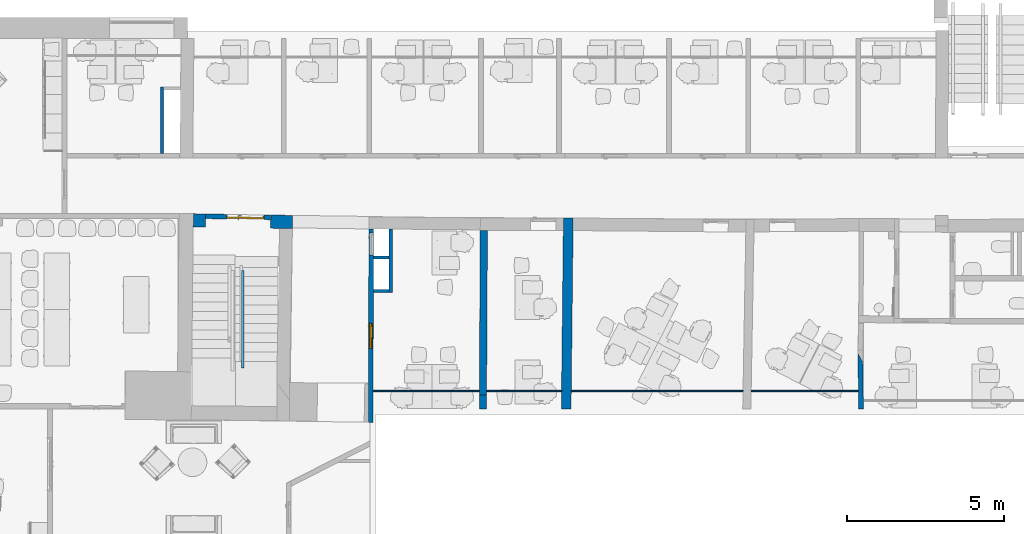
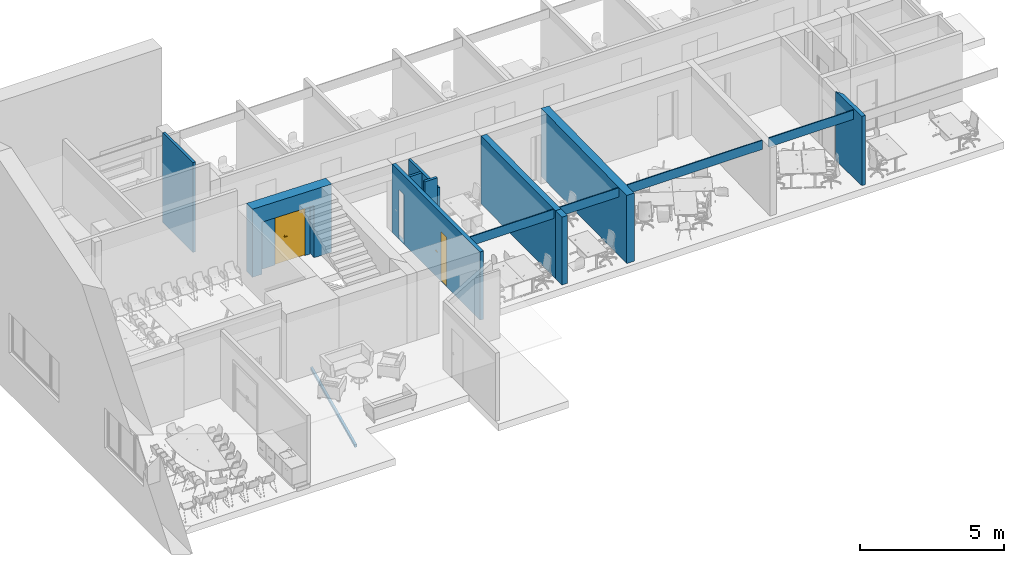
# One storey, part 3 of 19: 16 walls, 2 doors, 4 openings.
"""IFC2X3 building model written with IfcOpenShell, lengths in millimetres."""

from ifc_helpers import new_model, entity, si_unit, converted_unit, derived_unit, direction, frame, frame_2d, origin, origin_2d_with_axis, place, context, subcontext, project, spatial, polyline, rectangle, outline, extrude, clip, halfspace, bounded_halfspace, faceted_brep, source, transform, mapped, material, material_list, layer, layer_set, layer_usage, type_object, type_shapes, element, fill, save


model = new_model("IFC2X3")

# Units and contexts
model_context = context("Model", 3, precision=0.01, world=origin(), true_north=direction((6.12303176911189e-17, 1.0)))
context_of_model = context(None, 3, precision=0.01, world=origin(), true_north=direction((6.12303176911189e-17, 1.0)))
body_context = subcontext(model_context, "Body", "Model", "MODEL_VIEW")
ifc_project = project(units=[si_unit("LENGTHUNIT", "METRE", prefix="MILLI"), si_unit("AREAUNIT", "SQUARE_METRE"), si_unit("VOLUMEUNIT", "CUBIC_METRE"), converted_unit("PLANEANGLEUNIT", "DEGREE", entity("IfcRatioMeasure", 0.0174532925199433), si_unit("PLANEANGLEUNIT", "RADIAN"), dimensions=[0, 0, 0, 0, 0, 0, 0]), si_unit("MASSUNIT", "GRAM", prefix="KILO"), derived_unit("MASSDENSITYUNIT", [(si_unit("MASSUNIT", "GRAM", prefix="KILO"), 1), (si_unit("LENGTHUNIT", "METRE"), -3)]), si_unit("TIMEUNIT", "SECOND"), si_unit("FREQUENCYUNIT", "HERTZ"), si_unit("THERMODYNAMICTEMPERATUREUNIT", "DEGREE_CELSIUS"), derived_unit("THERMALTRANSMITTANCEUNIT", [(si_unit("MASSUNIT", "GRAM", prefix="KILO"), 1), (si_unit("THERMODYNAMICTEMPERATUREUNIT", "KELVIN"), -1), (si_unit("TIMEUNIT", "SECOND"), -3)]), derived_unit("VOLUMETRICFLOWRATEUNIT", [(si_unit("LENGTHUNIT", "METRE"), 3), (si_unit("TIMEUNIT", "SECOND"), -1)]), si_unit("ELECTRICCURRENTUNIT", "AMPERE"), si_unit("ELECTRICVOLTAGEUNIT", "VOLT"), si_unit("POWERUNIT", "WATT"), si_unit("FORCEUNIT", "NEWTON", prefix="KILO"), si_unit("ILLUMINANCEUNIT", "LUX"), si_unit("LUMINOUSFLUXUNIT", "LUMEN"), si_unit("LUMINOUSINTENSITYUNIT", "CANDELA"), derived_unit("USERDEFINED", [(si_unit("MASSUNIT", "GRAM", prefix="KILO"), -1), (si_unit("LENGTHUNIT", "METRE"), -2), (si_unit("TIMEUNIT", "SECOND"), 3), (si_unit("LUMINOUSFLUXUNIT", "LUMEN"), 1)]), derived_unit("LINEARVELOCITYUNIT", [(si_unit("LENGTHUNIT", "METRE"), 1), (si_unit("TIMEUNIT", "SECOND"), -1)]), si_unit("PRESSUREUNIT", "PASCAL"), derived_unit("USERDEFINED", [(si_unit("LENGTHUNIT", "METRE"), -2), (si_unit("MASSUNIT", "GRAM", prefix="KILO"), 1), (si_unit("TIMEUNIT", "SECOND"), -2)])], contexts=[model_context, context_of_model])

# Site, building, storey
site_placement = place(None, frame((121442.264707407, 135347.995453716, -1800.0)))
site = spatial("IfcSite", under=ifc_project, at=site_placement, Name="Surface", CompositionType="ELEMENT")
building_placement = place(site_placement, origin())
building = spatial("IfcBuilding", under=site, at=building_placement, CompositionType="ELEMENT")
storey_placement = place(building_placement, frame((0.0, 0.0, 5125.0)))
storey = spatial("IfcBuildingStorey", under=building, at=storey_placement, Name="2 korrus", CompositionType="ELEMENT", Elevation=5125.00000000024)

# Wall, openings, door
ifc_material_1 = material(Name="__Betoonelement")
ifc_layer_1 = layer(ifc_material_1, 150.0)
ifc_layer_set_1 = layer_set([ifc_layer_1], Name="Basic Wall:15_Betoon")
ifc_layer_usage_1 = layer_usage(ifc_layer_set_1, "AXIS2", "NEGATIVE", 75.0)
wall_type_1 = type_object("IfcWallType", Name="Basic Wall:15_Betoon", PredefinedType="STANDARD", material=ifc_layer_set_1)
wall_1_placement = place(storey_placement, frame((-103674.129993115, -127553.831899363, -5.0), z_axis=(0.0, 0.0, 1.0), x_axis=(0.00343135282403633, 0.999994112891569, 0.0)))
wall_1 = element("IfcWallStandardCase", 1, at=wall_1_placement, inside=storey, type_object=wall_type_1, material=ifc_layer_usage_1, Name="Basic Wall:15_Betoon", ObjectType="Basic Wall:15_Betoon", context=body_context, shape_type="Clipping", body=[
    clip(extrude(outline(polyline([(6152.17328757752, -75.0), (6152.95022643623, 75.0), (2.10342780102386, 75.0), (0.0, -75.0), (6152.17328757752, -75.0)])), origin(), (0.0, 0.0, 1.0), 2902.0), bounded_halfspace(frame((0.0, -75.0, 2902.0), z_axis=(0.0, 0.0, -1.0), x_axis=(-0.999994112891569, -0.00343135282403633, 0.0)), True, frame((0.0, -75.0, 2902.0)), polyline([(0.0, 0.0), (6152.17328757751, 0.0), (6152.95022643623, 150.0), (1222.22337253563, 150.0), (2.10342780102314, 150.0), (0.0, 0.0)]))),
])
opening_1_placement = place(wall_1_placement, frame((2340.94737332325, -73.6103021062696, 5.0)))
opening_1 = element("IfcOpeningElement", 2, at=opening_1_placement, cuts=wall_1, Name="sma_D01:810 x 2110_SU-01 Siseuks:1", ObjectType="Opening", context=body_context, shape_type="SweptSolid", body=[
    extrude(rectangle(XDim=2099.99999999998, YDim=810.0, at=frame_2d((1049.99999999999, 405.0), x_axis=(1.0, 0.0))), frame((0.0, 0.0, 0.0), z_axis=(0.00343135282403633, 0.999994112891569, 0.0), x_axis=(0.0, 0.0, 1.0)), (0.0, 0.0, 1.0), 150.0),
])
opening_2_placement = place(wall_1_placement, frame((5319.48220216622, -73.79902651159, 5.0)))
element("IfcOpeningElement", 3, at=opening_2_placement, cuts=wall_1, Name="sma_D01:700 x 2100mm SU-13 Tuletokke:1", ObjectType="Opening", context=body_context, shape_type="SweptSolid", body=[
    extrude(rectangle(XDim=2099.99999999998, YDim=700.0, at=frame_2d((1049.99999999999, 350.000000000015), x_axis=(1.0, 0.0))), frame((0.0, 0.0, 0.0), z_axis=(0.00343135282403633, 0.999994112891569, 0.0), x_axis=(0.0, 0.0, 1.0)), (0.0, 0.0, 1.0), 150.0),
])
ifc_material_2 = material(Name="Metal - Aluminium")
ifc_material_3 = material(Name="Door - Panel_valge")
ifc_material_list_1 = material_list([ifc_material_2, ifc_material_3])
ifc_material_list_2 = material_list([ifc_material_2, ifc_material_3])
door_style_1 = type_object("IfcDoorStyle", Name="810 x 2110_SU-01 Siseuks", ConstructionType="NOTDEFINED", OperationType="SINGLE_SWING_LEFT", ParameterTakesPrecedence=False, Sizeable=False, material=ifc_material_list_2)
shared_shape_1 = source(origin(), body_context, "Body", "Brep", [
    faceted_brep([(710.0, 40.0, 1112.5), (615.0, 40.0, 1112.5), (615.0, 35.0, 1112.5), (735.0, 35.0, 1112.5), (735.0, 78.0, 1112.5), (710.0, 78.0, 1112.5), (710.0, 40.0, 1087.5), (710.0, 78.0, 1087.5), (735.0, 78.0, 1087.5), (735.0, 35.0, 1087.5), (615.0, 35.0, 1087.5), (615.0, 40.0, 1087.5)], [[[0, 1, 2, 3, 4, 5]], [[6, 7, 8, 9, 10, 11]], [[5, 7, 6, 0]], [[4, 8, 7, 5]], [[3, 9, 8, 4]], [[2, 10, 9, 3]], [[1, 11, 10, 2]], [[0, 6, 11, 1]]]),
    faceted_brep([(697.500000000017, 78.0, 1137.5), (747.500000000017, 78.0, 1137.5), (747.500000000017, 80.0, 1137.5), (697.500000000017, 80.0, 1137.5), (697.500000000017, 78.0, 1017.5), (697.500000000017, 80.0, 1017.5), (747.500000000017, 80.0, 1017.5), (747.500000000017, 78.0, 1017.5)], [[[0, 1, 2, 3]], [[4, 5, 6, 7]], [[3, 5, 4, 0]], [[2, 6, 5, 3]], [[1, 7, 6, 2]], [[0, 4, 7, 1]]]),
    faceted_brep([(710.0, 170.0, 1112.5), (710.0, 132.0, 1112.5), (735.0, 132.0, 1112.5), (735.0, 175.0, 1112.5), (615.0, 175.0, 1112.5), (615.0, 170.0, 1112.5), (710.0, 170.0, 1087.5), (615.0, 170.0, 1087.5), (615.0, 175.0, 1087.5), (735.0, 175.0, 1087.5), (735.0, 132.0, 1087.5), (710.0, 132.0, 1087.5)], [[[0, 1, 2, 3, 4, 5]], [[6, 7, 8, 9, 10, 11]], [[1, 0, 6, 11]], [[2, 1, 11, 10]], [[3, 2, 10, 9]], [[4, 3, 9, 8]], [[5, 4, 8, 7]], [[0, 5, 7, 6]]]),
    faceted_brep([(697.500000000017, 132.0, 1137.5), (697.500000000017, 130.0, 1137.5), (747.500000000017, 130.0, 1137.5), (747.500000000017, 132.0, 1137.5), (697.500000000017, 132.0, 1017.5), (747.500000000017, 132.0, 1017.5), (747.500000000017, 130.0, 1017.5), (697.500000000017, 130.0, 1017.5)], [[[0, 1, 2, 3]], [[4, 5, 6, 7]], [[1, 0, 4, 7]], [[2, 1, 7, 6]], [[3, 2, 6, 5]], [[0, 3, 5, 4]]]),
    faceted_brep([(0.0, 40.0, 0.0), (0.0, 130.0, 0.0), (25.0, 130.0, 0.0), (25.0, 80.0, 0.0), (40.0, 80.0, 0.0), (40.0, 40.0, 0.0), (40.0, 40.0, 2060.0), (770.0, 40.0, 2060.0), (770.0, 40.0, 0.0), (810.0, 40.0, 0.0), (810.0, 40.0, 2100.0), (0.0, 40.0, 2100.0), (40.0, 80.0, 2060.0), (25.0, 80.0, 2075.0), (785.0, 80.0, 2075.0), (785.0, 80.0, 0.0), (770.0, 80.0, 0.0), (770.0, 80.0, 2060.0), (25.0, 130.0, 2075.0), (0.0, 130.0, 2100.0), (810.0, 130.0, 2100.0), (810.0, 130.0, 0.0), (785.0, 130.0, 0.0), (785.0, 130.0, 2075.0)], [[[0, 1, 2, 3, 4, 5]], [[5, 6, 7, 8, 9, 10, 11, 0]], [[4, 12, 6, 5]], [[3, 13, 14, 15, 16, 17, 12, 4]], [[2, 18, 13, 3]], [[1, 19, 20, 21, 22, 23, 18, 2]], [[0, 11, 19, 1]], [[10, 9, 21, 20]], [[9, 8, 16, 15, 22, 21]], [[17, 16, 8, 7]], [[23, 22, 15, 14]], [[12, 17, 7, 6]], [[18, 23, 14, 13]], [[11, 10, 20, 19]]]),
    faceted_brep([(785.0, 80.0, 2075.0), (25.0, 80.0, 2075.0), (25.0, 80.0, 20.0), (785.0, 80.0, 20.0), (785.0, 130.0, 2075.0), (785.0, 130.0, 20.0), (25.0, 130.0, 20.0), (25.0, 130.0, 2075.0)], [[[0, 1, 2, 3]], [[4, 5, 6, 7]], [[3, 5, 4, 0]], [[2, 6, 5, 3]], [[1, 7, 6, 2]], [[0, 4, 7, 1]]]),
    faceted_brep([(40.0, 40.0, 30.0), (40.0, 80.0, 30.0), (40.0, 80.0, 20.0), (40.0, 80.0, 0.0), (40.0, 40.0, 0.0), (770.0, 40.0, 30.0), (770.0, 40.0, 0.0), (770.0, 80.0, 0.0), (770.0, 80.0, 20.0), (770.0, 80.0, 30.0), (25.0, 80.0, 0.0), (25.0, 130.0, 0.0), (785.0, 130.0, 0.0), (785.0, 80.0, 0.0), (25.0, 130.0, 20.0), (25.0, 80.0, 20.0), (785.0, 130.0, 20.0), (785.0, 80.0, 20.0)], [[[0, 1, 2, 3, 4]], [[5, 6, 7, 8, 9]], [[4, 6, 5, 0]], [[3, 10, 11, 12, 13, 7, 6, 4]], [[9, 8, 2, 1]], [[0, 5, 9, 1]], [[14, 11, 10, 15]], [[16, 17, 13, 12]], [[15, 2, 8, 17, 16, 14]], [[10, 3, 2, 15]], [[14, 16, 12, 11]], [[17, 8, 7, 13]]]),
])
type_shapes(door_style_1, [shared_shape_1])
door_1_placement = place(opening_1_placement, frame((0.0, -9.4228030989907, 0.0)))
door_1 = element("IfcDoor", 4, at=door_1_placement, inside=storey, type_object=door_style_1, material=ifc_material_list_1, Name="sma_D01:810 x 2110_SU-01 Siseuks", ObjectType="810 x 2110_SU-01 Siseuks", OverallHeight=2099.99999999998, OverallWidth=809.999999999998, context=body_context, shape_type="MappedRepresentation", body=[
    mapped(shared_shape_1, transform((0.0, 0.0, 0.0), scale=1.0)),
])
fill(opening_1, door_1)

# Walls
ifc_layer_usage_2 = layer_usage(ifc_layer_set_1, "AXIS2", "POSITIVE", -75.0)
wall_2_placement = place(storey_placement, frame((-88098.7009986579, -125357.105633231, 0.0), z_axis=(0.0, 0.0, 1.0), x_axis=(0.0149456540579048, -0.999888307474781, 0.0)))
element("IfcWallStandardCase", 5, at=wall_2_placement, inside=storey, type_object=wall_type_1, material=ifc_layer_usage_2, Name="Basic Wall:15_Betoon", ObjectType="Basic Wall:15_Betoon", context=body_context, shape_type="SweptSolid", body=[
    extrude(outline(polyline([(1777.95304226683, -75.0), (1780.19514080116, 75.0), (279.385972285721, 75.0), (0.0, -75.0), (1777.95304226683, -75.0)])), origin(), (0.0, 0.0, 1.0), 2952.77741246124),
])
ifc_layer_2 = layer(ifc_material_1, 310.0)
ifc_layer_set_2 = layer_set([ifc_layer_2], Name="Basic Wall:31_Betoon 2")
ifc_layer_usage_3 = layer_usage(ifc_layer_set_2, "AXIS2", "NEGATIVE", 155.0)
wall_type_2 = type_object("IfcWallType", Name="Basic Wall:31_Betoon 2", PredefinedType="STANDARD", material=ifc_layer_set_2)
wall_3_placement = place(storey_placement, frame((-97451.9519460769, -127137.695371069, 0.0), z_axis=(0.0, 0.0, 1.0), x_axis=(0.0110603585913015, 0.999938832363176, 0.0)))
element("IfcWallStandardCase", 6, at=wall_3_placement, inside=storey, type_object=wall_type_2, material=ifc_layer_usage_3, Name="Basic Wall:31_Betoon 2", ObjectType="Basic Wall:31_Betoon 2", context=body_context, shape_type="Clipping", body=[
    clip(extrude(outline(polyline([(6085.22835222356, -155.0), (6084.56296412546, 155.0), (6083.84475313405, 155.0), (5683.82230122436, 155.0), (0.0, 155.0), (3.42892090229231, -155.0), (5685.22743080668, -155.0), (6085.22835222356, -155.0)])), origin(), (0.0, 0.0, 1.0), 2897.0), bounded_halfspace(frame((3.42892090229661, -155.0, 2897.0), z_axis=(0.0, 0.0, -1.0), x_axis=(-0.999938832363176, -0.0110603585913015, 0.0)), True, frame((3.42892090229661, -155.0, 2897.0)), polyline([(0.0, 0.0), (5681.79850990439, 0.0), (6081.79943132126, 0.0), (6081.13404322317, 310.0), (6080.41583223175, 310.0), (5680.39338032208, 310.0), (-3.42892090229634, 310.0), (0.0, 0.0)]))),
])

# Wall, opening
ifc_layer_3 = layer(ifc_material_1, 420.0)
ifc_layer_set_3 = layer_set([ifc_layer_3], Name="Basic Wall:42_Betoon")
ifc_layer_usage_4 = layer_usage(ifc_layer_set_3, "AXIS2", "NEGATIVE", 210.0)
wall_type_3 = type_object("IfcWallType", Name="Basic Wall:42_Betoon", PredefinedType="STANDARD", material=ifc_layer_set_3)
wall_4_placement = place(storey_placement, frame((-109315.712604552, -121128.130001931, 0.0), z_axis=(0.0, 0.0, 1.0), x_axis=(0.999860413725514, -0.0167078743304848, 0.0)))
wall_4 = element("IfcWallStandardCase", 7, at=wall_4_placement, inside=storey, type_object=wall_type_3, material=ifc_layer_usage_4, Name="Basic Wall:42_Betoon", ObjectType="Basic Wall:42_Betoon", context=body_context, shape_type="Clipping", body=[
    clip(extrude(outline(polyline([(2.55926854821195, -210.0), (2748.30105304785, -210.0), (3158.30139449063, -210.0), (3158.84343459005, 210.0), (0.0, 210.0), (2.55926854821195, -210.0)])), origin(), (0.0, 0.0, 1.0), 2897.0), bounded_halfspace(frame((2.5592685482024, -210.0, 2897.0), z_axis=(0.0, 0.0, -1.0), x_axis=(0.0167078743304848, -0.999860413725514, 0.0)), True, frame((2.5592685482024, -210.0, 2897.0)), polyline([(0.0, 0.0), (2745.74178449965, 0.0), (3155.74212594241, 0.0), (3156.28416604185, 420.0), (-2.55926854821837, 420.0), (0.0, 0.0)]))),
])
opening_3_placement = place(wall_4_placement, frame((107276.660057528, 122937.655366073, 0.0), z_axis=(0.0, 0.0, 1.0), x_axis=(0.999860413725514, 0.0167078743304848, 0.0)))
element("IfcOpeningElement", 8, at=opening_3_placement, cuts=wall_4, Name="Basic Wall:42_Betoon", ObjectType="Opening", context=body_context, shape_type="SweptSolid", body=[
    extrude(rectangle(XDim=2220.0, YDim=2070.00000000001, at=origin_2d_with_axis()), frame((-107908.426696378, -122465.829482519, 1110.0), z_axis=(0.0167078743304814, 0.999860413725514, 0.0), x_axis=(0.0, 0.0, -1.0)), (0.0, 0.0, 1.0), 3048.0),
])

# Walls
ifc_layer_4 = layer(ifc_material_1, 230.0)
ifc_layer_set_4 = layer_set([ifc_layer_4], Name="Basic Wall:23_Betoon 3")
ifc_layer_usage_5 = layer_usage(ifc_layer_set_4, "AXIS2", "NEGATIVE", 115.0)
wall_type_4 = type_object("IfcWallType", Name="Basic Wall:23_Betoon 3", PredefinedType="STANDARD", material=ifc_layer_set_4)
wall_5_placement = place(storey_placement, frame((-100099.605144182, -126685.195921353, 0.0), z_axis=(0.0, 0.0, 1.0), x_axis=(0.0053018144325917, 0.999985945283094, 0.0)))
element("IfcWallStandardCase", 9, at=wall_5_placement, inside=storey, type_object=wall_type_4, material=ifc_layer_usage_5, Name="Basic Wall:23_Betoon 3", ObjectType="Basic Wall:23_Betoon 3", context=body_context, shape_type="SweptSolid", body=[
    extrude(outline(polyline([(5234.4961388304, -115.0), (5233.38378851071, 115.0), (0.0, 115.0), (0.609712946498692, -115.0), (5234.4961388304, -115.0)])), origin(), (0.0, 0.0, 1.0), 2890.0),
])
ifc_layer_usage_6 = layer_usage(ifc_layer_set_4, "AXIS2", "POSITIVE", -115.0)
wall_6_placement = place(storey_placement, frame((-100099.603527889, -126684.586212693, 0.0), z_axis=(0.0, 0.0, 1.0), x_axis=(0.0, -1.0, 0.0)))
element("IfcWallStandardCase", 10, at=wall_6_placement, inside=storey, type_object=wall_type_4, material=ifc_layer_usage_6, Name="Basic Wall:23_Betoon 3", ObjectType="Basic Wall:23_Betoon 3", context=body_context, shape_type="SweptSolid", body=[
    extrude(outline(polyline([(451.394802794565, -115.0), (451.394802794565, 115.0), (0.609712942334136, 115.0), (0.0, -115.0), (451.394802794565, -115.0)])), origin(), (0.0, 0.0, 1.0), 2887.0),
])

# Wall, opening, door
ifc_material_4 = material(Name="Plaster")
ifc_layer_5 = layer(ifc_material_4, 10.0)
ifc_material_5 = material(Name="EST. Müüritis. Väikeplokk. Kergkruusplokk")
ifc_layer_6 = layer(ifc_material_5, 130.0)
ifc_layer_7 = layer(ifc_material_4, 10.0)
ifc_layer_set_5 = layer_set([ifc_layer_5, ifc_layer_6, ifc_layer_7], Name="Basic Wall:15_FIBO")
ifc_layer_usage_7 = layer_usage(ifc_layer_set_5, "AXIS2", "NEGATIVE", 75.0)
wall_type_5 = type_object("IfcWallType", Name="Basic Wall:15_FIBO", PredefinedType="STANDARD", material=ifc_layer_set_5)
wall_7_placement = place(storey_placement, frame((-108919.169292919, -120999.737413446, 0.0), z_axis=(0.0, 0.0, 1.0), x_axis=(0.999838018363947, -0.0179982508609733, 0.0)))
wall_7 = element("IfcWallStandardCase", 11, at=wall_7_placement, inside=storey, type_object=wall_type_5, material=ifc_layer_usage_7, Name="Basic Wall:15_FIBO", ObjectType="Basic Wall:15_FIBO", context=body_context, shape_type="SweptSolid", body=[
    extrude(rectangle(XDim=2060.0, YDim=150.000000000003, at=frame_2d((1030.0, 3.90798504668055e-12), x_axis=(-1.0, 0.0))), origin(), (0.0, 0.0, 1.0), 2220.0),
])
opening_4_placement = place(wall_7_placement, frame((1860.0, 75.0, 0.0)))
opening_4 = element("IfcOpeningElement", 12, at=opening_4_placement, cuts=wall_7, Name="sma_D02:1200 x 2100mm SU-11 Tuletokke:1", ObjectType="Opening", context=body_context, shape_type="SweptSolid", body=[
    extrude(rectangle(XDim=2099.99999999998, YDim=1200.0, at=frame_2d((1049.99999999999, 600.0), x_axis=(1.0, 0.0))), frame((0.0, 0.0, 0.0), z_axis=(0.0, -1.0, 0.0), x_axis=(0.0, 0.0, 1.0)), (0.0, 0.0, 1.0), 150.0),
])
door_style_2 = type_object("IfcDoorStyle", Name="1200 x 2100mm SU-11 Tuletokke", ConstructionType="NOTDEFINED", OperationType="NOTDEFINED", ParameterTakesPrecedence=False, Sizeable=False, material=ifc_material_2)
shared_shape_2 = source(origin(), body_context, "Body", "Brep", [
    faceted_brep([(745.260051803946, 40.0, 1100.0), (650.260051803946, 40.0, 1100.0), (650.260051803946, 35.0, 1100.0), (770.260051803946, 35.0, 1100.0), (770.260051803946, 78.0, 1100.0), (745.260051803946, 78.0, 1100.0), (745.260051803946, 40.0, 1075.0), (745.260051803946, 78.0, 1075.0), (770.260051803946, 78.0, 1075.0), (770.260051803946, 35.0, 1075.0), (650.260051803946, 35.0, 1075.0), (650.260051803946, 40.0, 1075.0)], [[[0, 1, 2, 3, 4, 5]], [[6, 7, 8, 9, 10, 11]], [[5, 7, 6, 0]], [[4, 8, 7, 5]], [[3, 9, 8, 4]], [[2, 10, 9, 3]], [[1, 11, 10, 2]], [[0, 6, 11, 1]]]),
    faceted_brep([(732.760051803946, 78.0, 1125.0), (782.760051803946, 78.0, 1125.0), (782.760051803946, 80.0, 1125.0), (732.760051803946, 80.0, 1125.0), (732.760051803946, 78.0, 1005.0), (732.760051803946, 80.0, 1005.0), (782.760051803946, 80.0, 1005.0), (782.760051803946, 78.0, 1005.0)], [[[0, 1, 2, 3]], [[4, 5, 6, 7]], [[3, 5, 4, 0]], [[2, 6, 5, 3]], [[1, 7, 6, 2]], [[0, 4, 7, 1]]]),
    faceted_brep([(745.260051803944, 170.0, 1100.0), (745.260051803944, 132.0, 1100.0), (770.260051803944, 132.0, 1100.0), (770.260051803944, 175.0, 1100.0), (650.260051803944, 175.0, 1100.0), (650.260051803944, 170.0, 1100.0), (745.260051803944, 170.0, 1075.0), (650.260051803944, 170.0, 1075.0), (650.260051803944, 175.0, 1075.0), (770.260051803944, 175.0, 1075.0), (770.260051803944, 132.0, 1075.0), (745.260051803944, 132.0, 1075.0)], [[[0, 1, 2, 3, 4, 5]], [[6, 7, 8, 9, 10, 11]], [[1, 0, 6, 11]], [[2, 1, 11, 10]], [[3, 2, 10, 9]], [[4, 3, 9, 8]], [[5, 4, 8, 7]], [[0, 5, 7, 6]]]),
    faceted_brep([(732.760051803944, 132.0, 1125.0), (732.760051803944, 130.0, 1125.0), (782.760051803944, 130.0, 1125.0), (782.760051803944, 132.0, 1125.0), (732.760051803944, 132.0, 1005.0), (782.760051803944, 132.0, 1005.0), (782.760051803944, 130.0, 1005.0), (732.760051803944, 130.0, 1005.0)], [[[0, 1, 2, 3]], [[4, 5, 6, 7]], [[1, 0, 4, 7]], [[2, 1, 7, 6]], [[3, 2, 6, 5]], [[0, 3, 5, 4]]]),
    faceted_brep([(-67.2399481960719, 40.0, 0.0), (-67.2399481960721, 130.0, 0.0), (-42.2399481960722, 130.0, 0.0), (-42.239948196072, 80.0, 0.0), (-27.239948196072, 80.0, 0.0), (-27.2399481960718, 40.0, 0.0), (-27.2399481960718, 40.0, 2060.0), (1092.76005180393, 40.0, 2060.0), (1092.76005180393, 40.0, 0.0), (1132.76005180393, 40.0, 0.0), (1132.76005180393, 40.0, 2100.0), (-67.2399481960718, 40.0, 2100.0), (-27.2399481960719, 80.0, 2060.0), (-42.2399481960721, 80.0, 2075.0), (1107.76005180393, 80.0, 2075.0), (1107.76005180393, 80.0, 0.0), (1092.76005180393, 80.0, 0.0), (1092.76005180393, 80.0, 2060.0), (-42.239948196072, 130.0, 2075.0), (-67.2399481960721, 130.0, 2100.0), (1132.76005180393, 130.0, 2100.0), (1132.76005180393, 130.0, 0.0), (1107.76005180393, 130.0, 0.0), (1107.76005180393, 130.0, 2075.0)], [[[0, 1, 2, 3, 4, 5]], [[5, 6, 7, 8, 9, 10, 11, 0]], [[4, 12, 6, 5]], [[3, 13, 14, 15, 16, 17, 12, 4]], [[2, 18, 13, 3]], [[1, 19, 20, 21, 22, 23, 18, 2]], [[0, 11, 19, 1]], [[10, 9, 21, 20]], [[9, 8, 16, 15, 22, 21]], [[17, 16, 8, 7]], [[23, 22, 15, 14]], [[12, 17, 7, 6]], [[18, 23, 14, 13]], [[11, 10, 20, 19]]]),
    faceted_brep([(1107.76005180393, 80.0, 20.0), (1107.76005180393, 80.0, 2075.0), (832.760051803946, 80.0, 2075.0), (832.760051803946, 80.0, 20.0), (1107.76005180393, 130.0, 20.0), (832.760051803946, 130.0, 20.0), (832.760051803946, 130.0, 2075.0), (1107.76005180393, 130.0, 2075.0)], [[[0, 1, 2, 3]], [[4, 5, 6, 7]], [[3, 5, 4, 0]], [[2, 6, 5, 3]], [[1, 7, 6, 2]], [[0, 4, 7, 1]]]),
    faceted_brep([(832.760051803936, 80.0, 2075.0), (-42.2399481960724, 80.0, 2075.0), (-42.2399481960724, 80.0, 20.0), (832.760051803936, 80.0, 20.0), (832.760051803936, 130.0, 2075.0), (832.760051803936, 130.0, 20.0), (-42.2399481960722, 130.0, 20.0), (-42.2399481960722, 130.0, 2075.0)], [[[0, 1, 2, 3]], [[4, 5, 6, 7]], [[3, 5, 4, 0]], [[2, 6, 5, 3]], [[1, 7, 6, 2]], [[0, 4, 7, 1]]]),
])
type_shapes(door_style_2, [shared_shape_2])
door_2_placement = place(opening_4_placement, frame((-67.2399481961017, 0.0, 0.0), z_axis=(0.0, 0.0, 1.0), x_axis=(-1.0, 0.0, 0.0)))
door_2 = element("IfcDoor", 13, at=door_2_placement, inside=storey, type_object=door_style_2, material=ifc_material_2, Name="sma_D02:1200 x 2100mm SU-11 Tuletokke", ObjectType="1200 x 2100mm SU-11 Tuletokke", OverallHeight=2099.99999999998, OverallWidth=1200.0, context=body_context, shape_type="MappedRepresentation", body=[
    mapped(shared_shape_2, transform((0.0, 0.0, 0.0), scale=1.0)),
])
fill(opening_4, door_2)

# Walls
ifc_layer_8 = layer(ifc_material_4, 5.0)
ifc_material_6 = material(Name="CMU, Lightweight")
ifc_layer_9 = layer(ifc_material_6, 90.0)
ifc_layer_10 = layer(ifc_material_4, 5.0)
ifc_layer_set_6 = layer_set([ifc_layer_8, ifc_layer_9, ifc_layer_10], Name="Basic Wall:10_FIBO + 2xKROHV")
ifc_layer_usage_8 = layer_usage(ifc_layer_set_6, "AXIS2", "POSITIVE", -50.0)
wall_type_6 = type_object("IfcWallType", Name="Basic Wall:10_FIBO + 2xKROHV", PredefinedType="STANDARD", material=ifc_layer_set_6)
wall_8_placement = place(storey_placement, frame((-103034.686724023, -121406.200334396, 0.0), z_axis=(0.0, 0.0, 1.0), x_axis=(0.0, -1.0, 0.0)))
element("IfcWallStandardCase", 14, at=wall_8_placement, inside=storey, type_object=wall_type_6, material=ifc_layer_usage_8, Name="Basic Wall:10_FIBO + 2xKROHV", ObjectType="Basic Wall:10_FIBO + 2xKROHV", context=body_context, shape_type="SweptSolid", body=[
    extrude(outline(polyline([(2023.62813872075, -50.0), (2023.62813872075, 50.0), (0.861111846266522, 50.0), (0.0, -50.0), (857.85953452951, -50.0), (957.859534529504, -50.0), (1923.62813872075, -50.0), (2023.62813872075, -50.0)])), origin(), (0.0, 0.0, 1.0), 2890.0),
])
ifc_layer_usage_9 = layer_usage(ifc_layer_set_6, "AXIS2", "POSITIVE", -50.0)
wall_9_placement = place(storey_placement, frame((-103084.686724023, -122314.059868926, 0.0), z_axis=(0.0, 0.0, 1.0), x_axis=(-1.0, 0.0, 0.0)))
element("IfcWallStandardCase", 15, at=wall_9_placement, inside=storey, type_object=wall_type_6, material=ifc_layer_usage_9, Name="Basic Wall:10_FIBO + 2xKROHV", ObjectType="Basic Wall:10_FIBO + 2xKROHV", context=body_context, shape_type="SweptSolid", body=[
    extrude(outline(polyline([(496.291646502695, -50.0), (496.634783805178, 50.0), (0.0, 50.0), (0.0, -50.0), (496.291646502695, -50.0)])), origin(), (0.0, 0.0, 1.0), 2890.0),
])
ifc_layer_usage_10 = layer_usage(ifc_layer_set_6, "AXIS2", "POSITIVE", -50.0)
wall_10_placement = place(storey_placement, frame((-102984.686724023, -123379.828473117, 0.0), z_axis=(0.0, 0.0, 1.0), x_axis=(-1.0, 0.0, 0.0)))
element("IfcWallStandardCase", 16, at=wall_10_placement, inside=storey, type_object=wall_type_6, material=ifc_layer_usage_10, Name="Basic Wall:10_FIBO + 2xKROHV", ObjectType="Basic Wall:10_FIBO + 2xKROHV", context=body_context, shape_type="SweptSolid", body=[
    extrude(outline(polyline([(599.948696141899, -50.0), (600.291833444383, 50.0), (100.0, 50.0), (100.0, -50.0), (599.948696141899, -50.0)])), origin(), (0.0, 0.0, 1.0), 3325.0),
])
ifc_layer_usage_11 = layer_usage(ifc_layer_set_6, "AXIS2", "NEGATIVE", 50.0)
wall_11_placement = place(storey_placement, frame((-110305.51405853, -118999.337196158, 0.0), z_axis=(0.0, 0.0, 1.0), x_axis=(0.0, 1.0, 0.0)))
element("IfcWallStandardCase", 17, at=wall_11_placement, inside=storey, type_object=wall_type_6, material=ifc_layer_usage_11, Name="Basic Wall:10_FIBO + 2xKROHV", ObjectType="Basic Wall:10_FIBO + 2xKROHV", context=body_context, shape_type="SweptSolid", body=[
    extrude(rectangle(XDim=2110.42316508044, YDim=100.000000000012, at=frame_2d((1055.21158254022, 0.0), x_axis=(-1.0, 0.0))), origin(), (0.0, 0.0, 1.0), 3825.0),
])
ifc_material_7 = material(Name="Metal - Stud Layer")
ifc_layer_11 = layer(ifc_material_7, 30.0)
ifc_material_8 = material(Name="Gypsum Wall Board")
ifc_layer_12 = layer(ifc_material_8, 13.0)
ifc_layer_set_7 = layer_set([ifc_layer_11, ifc_layer_12], Name="Basic Wall:Kipssirm 1 kordne")
ifc_layer_usage_12 = layer_usage(ifc_layer_set_7, "AXIS2", "NEGATIVE", 21.5)
wall_type_7 = type_object("IfcWallType", Name="Basic Wall:Kipssirm 1 kordne", PredefinedType="STANDARD", material=ifc_layer_set_7)
wall_12_placement = place(storey_placement, frame((-99984.040388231, -126557.481015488, 2500.0)))
element("IfcWallStandardCase", 18, at=wall_12_placement, inside=storey, type_object=wall_type_7, material=ifc_layer_usage_12, Name="Basic Wall:Kipssirm 1 kordne", ObjectType="Basic Wall:Kipssirm 1 kordne", context=body_context, shape_type="SweptSolid", body=[
    extrude(outline(polyline([(2383.25891972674, -21.5000000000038), (2383.734544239, 21.5000000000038), (0.227981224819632, 21.5000000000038), (0.0, -21.5000000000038), (2383.25891972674, -21.5000000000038)])), origin(), (0.0, 0.0, 1.0), 390.0),
])
ifc_layer_usage_13 = layer_usage(ifc_layer_set_7, "AXIS2", "NEGATIVE", 21.5)
wall_13_placement = place(storey_placement, frame((-103595.784474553, -126557.481015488, 2500.0)))
element("IfcWallStandardCase", 19, at=wall_13_placement, inside=storey, type_object=wall_type_7, material=ifc_layer_usage_13, Name="Basic Wall:Kipssirm 1 kordne", ObjectType="Basic Wall:Kipssirm 1 kordne", context=body_context, shape_type="SweptSolid", body=[
    extrude(outline(polyline([(3381.18094666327, -21.5000000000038), (3381.18094666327, 21.5000000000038), (0.147549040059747, 21.5000000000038), (0.0, -21.5000000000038), (3381.18094666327, -21.5000000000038)])), origin(), (0.0, 0.0, 1.0), 390.0),
])
ifc_layer_usage_14 = layer_usage(ifc_layer_set_7, "AXIS2", "NEGATIVE", 21.5)
wall_14_placement = place(storey_placement, frame((-97290.7625053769, -126557.481015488, 2500.0)))
element("IfcWallStandardCase", 20, at=wall_14_placement, inside=storey, type_object=wall_type_7, material=ifc_layer_usage_14, Name="Basic Wall:Kipssirm 1 kordne", ObjectType="Basic Wall:Kipssirm 1 kordne", context=body_context, shape_type="SweptSolid", body=[
    extrude(outline(polyline([(5462.60120964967, -21.5000000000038), (5463.35177744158, 21.5000000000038), (0.475624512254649, 21.5000000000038), (0.0, -21.5000000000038), (5462.60120964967, -21.5000000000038)])), origin(), (0.0, 0.0, 1.0), 390.0),
])
ifc_layer_usage_15 = layer_usage(ifc_layer_set_7, "AXIS2", "NEGATIVE", 21.5)
wall_15_placement = place(storey_placement, frame((-91568.1216904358, -126557.481015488, 2500.0)))
element("IfcWallStandardCase", 21, at=wall_15_placement, inside=storey, type_object=wall_type_7, material=ifc_layer_usage_15, Name="Basic Wall:Kipssirm 1 kordne", ObjectType="Basic Wall:Kipssirm 1 kordne", context=body_context, shape_type="SweptSolid", body=[
    extrude(outline(polyline([(3412.67608059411, -21.5000000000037), (3412.03334568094, 21.5000000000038), (0.750567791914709, 21.5000000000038), (0.0, -21.5000000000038), (3412.67608059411, -21.5000000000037)])), origin(), (0.0, 0.0, 1.0), 390.0),
])
ifc_material_9 = material(Name="NCS S 2570-R Syvä punainen, matta, ruisku")
ifc_layer_13 = layer(ifc_material_9, 1.0)
ifc_layer_14 = layer(ifc_material_1, 90.0)
ifc_layer_set_8 = layer_set([ifc_layer_13, ifc_layer_14], Name="Basic Wall:8_Betoon 2")
ifc_layer_usage_16 = layer_usage(ifc_layer_set_8, "AXIS2", "NEGATIVE", 45.5)
wall_type_8 = type_object("IfcWallType", Name="Basic Wall:8_Betoon 2", PredefinedType="STANDARD", material=ifc_layer_set_8)
wall_16_placement = place(storey_placement, frame((-107741.93511134, -122726.66176162, -5056.1551901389), z_axis=(0.0, 0.0, 1.0), x_axis=(0.0, -1.0, 0.0)))
element("IfcWallStandardCase", 22, at=wall_16_placement, inside=storey, type_object=wall_type_8, material=ifc_layer_usage_16, Name="Basic Wall:8_Betoon 2", ObjectType="Basic Wall:8_Betoon 2", context=body_context, shape_type="Clipping", body=[
    clip(clip(extrude(rectangle(XDim=3092.1288136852, YDim=90.9999999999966, at=frame_2d((1546.0644068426, -2.59348098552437e-13), x_axis=(-1.0, 0.0))), origin(), (0.0, 0.0, 1.0), 1550.11392093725), halfspace(frame((3092.1288136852, -45.499999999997, 0.0), z_axis=(-0.4226182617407, 0.0, -0.90630778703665), x_axis=(0.0, 1.0, 0.0)), False)), halfspace(frame((0.0, -45.4999999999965, 1550.11392093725), z_axis=(0.422618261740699, 0.0, 0.90630778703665), x_axis=(0.0, 1.0, 0.0)), False)),
])

save(model, "model.ifc")
